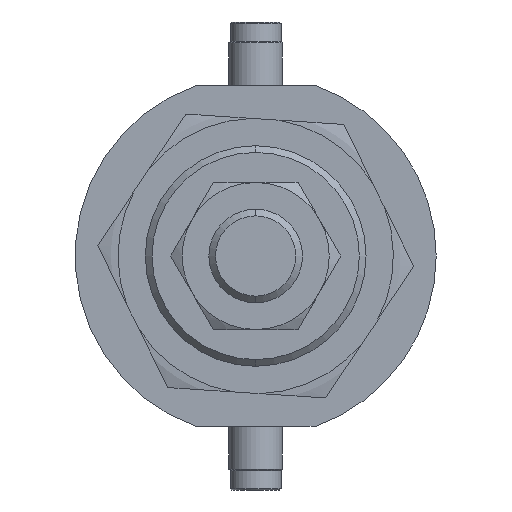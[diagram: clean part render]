
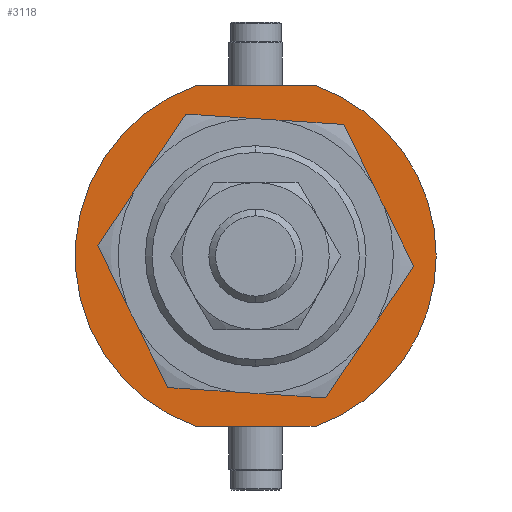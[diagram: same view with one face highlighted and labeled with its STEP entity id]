
A CAD part, left-side view. The second image highlights one B-rep face of the part: STEP entity #3118.
In plain terms, the highlighted planar face has unit normal (-1, 0, 0) as drawn and (0, 1, 0) by its records, which use the part's own axes.
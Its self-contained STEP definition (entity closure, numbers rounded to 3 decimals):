
#103 = VERTEX_POINT ( 'NONE', #3171 ) ;
#104 = VERTEX_POINT ( 'NONE', #3767 ) ;
#186 = VERTEX_POINT ( 'NONE', #872 ) ;
#197 = CARTESIAN_POINT ( 'NONE',  ( 0., 4.5, 0. ) ) ;
#219 = CARTESIAN_POINT ( 'NONE',  ( 0., 4.5, 0. ) ) ;
#243 = DIRECTION ( 'NONE',  ( 0., 0., 1. ) ) ;
#302 = VERTEX_POINT ( 'NONE', #3794 ) ;
#612 = CARTESIAN_POINT ( 'NONE',  ( 0., 4.5, -16.5 ) ) ;
#743 = VERTEX_POINT ( 'NONE', #1028 ) ;
#772 = DIRECTION ( 'NONE',  ( 0., 1., 0. ) ) ;
#821 = DIRECTION ( 'NONE',  ( 0., 0., 1. ) ) ;
#872 = CARTESIAN_POINT ( 'NONE',  ( -25.5, 4.5, -8.874 ) ) ;
#893 = CARTESIAN_POINT ( 'NONE',  ( 0., 4.5, 27. ) ) ;
#895 = CARTESIAN_POINT ( 'NONE',  ( 0., 4.5, 0. ) ) ;
#1028 = CARTESIAN_POINT ( 'NONE',  ( 25.5, 4.5, -8.874 ) ) ;
#1202 = CIRCLE ( 'NONE', #1338, 16.5 ) ;
#1225 = VECTOR ( 'NONE', #4079, 1000. ) ;
#1259 = EDGE_LOOP ( 'NONE', ( #1471, #4034, #4206, #2762, #2553 ) ) ;
#1313 = DIRECTION ( 'NONE',  ( 0., 1., 0. ) ) ;
#1338 = AXIS2_PLACEMENT_3D ( 'NONE', #895, #2181, #821 ) ;
#1354 = DIRECTION ( 'NONE',  ( 0., 0., 1. ) ) ;
#1471 = ORIENTED_EDGE ( 'NONE', *, *, #2068, .T. ) ;
#1592 = CARTESIAN_POINT ( 'NONE',  ( 25.5, 4.5, -8.874 ) ) ;
#1680 = CIRCLE ( 'NONE', #3369, 16.5 ) ;
#1770 = EDGE_CURVE ( 'NONE', #104, #743, #2535, .T. ) ;
#1802 = EDGE_CURVE ( 'NONE', #103, #3747, #1202, .T. ) ;
#1900 = VECTOR ( 'NONE', #2470, 1000. ) ;
#1982 = EDGE_CURVE ( 'NONE', #2349, #104, #3164, .T. ) ;
#1984 = CARTESIAN_POINT ( 'NONE',  ( 0., 4.5, 0. ) ) ;
#2006 = LINE ( 'NONE', #2536, #1225 ) ;
#2064 = DIRECTION ( 'NONE',  ( 0., 0., 1. ) ) ;
#2068 = EDGE_CURVE ( 'NONE', #743, #186, #4130, .T. ) ;
#2120 = DIRECTION ( 'NONE',  ( 0., 1., 0. ) ) ;
#2181 = DIRECTION ( 'NONE',  ( 0., 1., 0. ) ) ;
#2311 = DIRECTION ( 'NONE',  ( 0., 0., 1. ) ) ;
#2349 = VERTEX_POINT ( 'NONE', #893 ) ;
#2452 = EDGE_LOOP ( 'NONE', ( #2556, #2461 ) ) ;
#2458 = AXIS2_PLACEMENT_3D ( 'NONE', #219, #772, #3155 ) ;
#2461 = ORIENTED_EDGE ( 'NONE', *, *, #2979, .F. ) ;
#2470 = DIRECTION ( 'NONE',  ( 0., 0., -1. ) ) ;
#2512 = CARTESIAN_POINT ( 'NONE',  ( 0., 4.5, 0. ) ) ;
#2535 = LINE ( 'NONE', #1592, #1900 ) ;
#2536 = CARTESIAN_POINT ( 'NONE',  ( -25.5, 4.5, -8.874 ) ) ;
#2553 = ORIENTED_EDGE ( 'NONE', *, *, #1770, .T. ) ;
#2556 = ORIENTED_EDGE ( 'NONE', *, *, #1802, .F. ) ;
#2762 = ORIENTED_EDGE ( 'NONE', *, *, #1982, .T. ) ;
#2777 = DIRECTION ( 'NONE',  ( 0., 1., 0. ) ) ;
#2868 = CARTESIAN_POINT ( 'NONE',  ( 0., 4.5, 0. ) ) ;
#2979 = EDGE_CURVE ( 'NONE', #3747, #103, #1680, .T. ) ;
#3026 = EDGE_CURVE ( 'NONE', #186, #302, #2006, .T. ) ;
#3045 = DIRECTION ( 'NONE',  ( 0., 1., 0. ) ) ;
#3051 = AXIS2_PLACEMENT_3D ( 'NONE', #2868, #2120, #2064 ) ;
#3118 = ADVANCED_FACE ( 'NONE', ( #3664, #3138 ), #3809, .T. ) ;
#3138 = FACE_OUTER_BOUND ( 'NONE', #1259, .T. ) ;
#3155 = DIRECTION ( 'NONE',  ( 0., 0., 1. ) ) ;
#3164 = CIRCLE ( 'NONE', #3315, 27. ) ;
#3171 = CARTESIAN_POINT ( 'NONE',  ( 0., 4.5, 16.5 ) ) ;
#3259 = CIRCLE ( 'NONE', #2458, 27. ) ;
#3285 = AXIS2_PLACEMENT_3D ( 'NONE', #1984, #3045, #243 ) ;
#3315 = AXIS2_PLACEMENT_3D ( 'NONE', #2512, #2777, #1354 ) ;
#3369 = AXIS2_PLACEMENT_3D ( 'NONE', #197, #1313, #2311 ) ;
#3664 = FACE_BOUND ( 'NONE', #2452, .T. ) ;
#3747 = VERTEX_POINT ( 'NONE', #612 ) ;
#3767 = CARTESIAN_POINT ( 'NONE',  ( 25.5, 4.5, 8.874 ) ) ;
#3794 = CARTESIAN_POINT ( 'NONE',  ( -25.5, 4.5, 8.874 ) ) ;
#3809 = PLANE ( 'NONE',  #3051 ) ;
#4034 = ORIENTED_EDGE ( 'NONE', *, *, #3026, .T. ) ;
#4079 = DIRECTION ( 'NONE',  ( 0., 0., 1. ) ) ;
#4130 = CIRCLE ( 'NONE', #3285, 27. ) ;
#4163 = EDGE_CURVE ( 'NONE', #302, #2349, #3259, .T. ) ;
#4206 = ORIENTED_EDGE ( 'NONE', *, *, #4163, .T. ) ;
